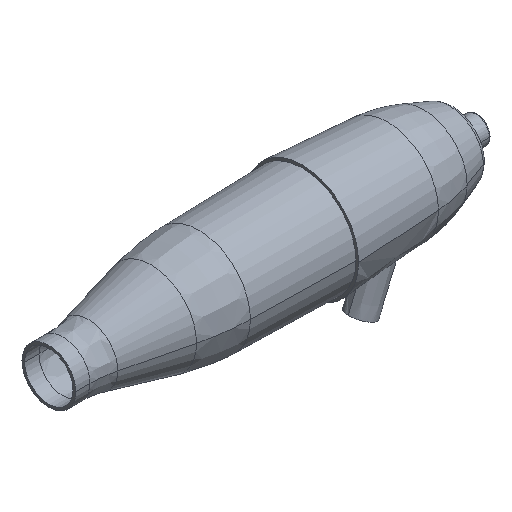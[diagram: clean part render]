
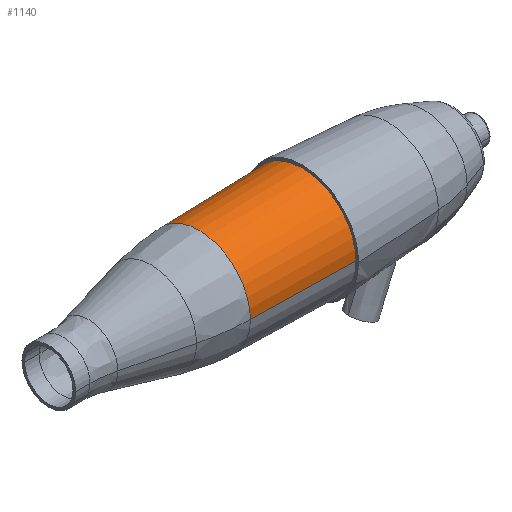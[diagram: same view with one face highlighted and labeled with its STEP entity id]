
A CAD part, isometric view. The second image highlights one B-rep face of the part: STEP entity #1140.
In plain terms, the highlighted free-form (B-spline) face has degree [8, 1] with [9, 2] control points.
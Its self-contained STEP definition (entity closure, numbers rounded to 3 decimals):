
#12=CARTESIAN_POINT('',(0.,0.,0.));
#13=DIRECTION('',(1.,0.,0.));
#14=DIRECTION('',(0.,1.,0.));
#15=AXIS2_PLACEMENT_3D('',#12,#13,#14);
#22=CARTESIAN_POINT('',(-38.456,0.,0.));
#23=DIRECTION('',(-1.,0.,0.));
#24=DIRECTION('',(0.,-1.,0.));
#25=AXIS2_PLACEMENT_3D('',#22,#23,#24);
#55=DIRECTION('',(-1.,0.021,0.));
#56=VECTOR('',#55,38.464);
#57=CARTESIAN_POINT('',(0.,-20.,0.));
#58=LINE('',#57,#56);
#64=DIRECTION('',(-1.,-0.021,0.));
#65=VECTOR('',#64,38.464);
#66=CARTESIAN_POINT('',(0.,20.,0.));
#67=LINE('',#66,#65);
#958=CARTESIAN_POINT('',(0.,20.,0.));
#959=CARTESIAN_POINT('',(0.,-20.,0.));
#960=VERTEX_POINT('',#958);
#961=VERTEX_POINT('',#959);
#978=CARTESIAN_POINT('',(-38.456,19.19,0.));
#979=CARTESIAN_POINT('',(-38.456,-19.19,0.));
#980=VERTEX_POINT('',#978);
#981=VERTEX_POINT('',#979);
#1112=CARTESIAN_POINT('',(-39.225,19.135,
-1.204));
#1113=CARTESIAN_POINT('',(0.769,19.977,
-1.257));
#1114=CARTESIAN_POINT('',(-39.225,19.627,6.611));
#1115=CARTESIAN_POINT('',(0.769,20.49,6.902));
#1116=CARTESIAN_POINT('',(-39.225,16.471,14.656));
#1117=CARTESIAN_POINT('',(0.769,17.195,15.3));
#1118=CARTESIAN_POINT('',(-39.225,9.549,20.943));
#1119=CARTESIAN_POINT('',(0.769,9.968,21.863));
#1120=CARTESIAN_POINT('',(-39.225,-0.002,
23.41));
#1121=CARTESIAN_POINT('',(0.769,-0.003,
24.439));
#1122=CARTESIAN_POINT('',(-39.225,-9.545,
20.943));
#1123=CARTESIAN_POINT('',(0.769,-9.965,
21.863));
#1124=CARTESIAN_POINT('',(-39.225,-16.471,
14.656));
#1125=CARTESIAN_POINT('',(0.769,-17.195,
15.3));
#1126=CARTESIAN_POINT('',(-39.225,-19.627,
6.611));
#1127=CARTESIAN_POINT('',(0.769,-20.49,
6.902));
#1128=CARTESIAN_POINT('',(-39.225,-19.135,
-1.204));
#1129=CARTESIAN_POINT('',(0.769,-19.977,
-1.257));
#1130=B_SPLINE_SURFACE_WITH_KNOTS('',8,1,((#1112,#1113),(#1114,#1115),(#1116,
#1117),(#1118,#1119),(#1120,#1121),(#1122,#1123),(#1124,#1125),(#1126,#1127),(
#1128,#1129)),.UNSPECIFIED.,.F.,.F.,.F.,(9,9),(2,2),(-3.204,
0.063),(909.764,949.758),.UNSPECIFIED.);
#1132=ORIENTED_EDGE('',*,*,#1131,.T.);
#1134=ORIENTED_EDGE('',*,*,#1133,.F.);
#1135=ORIENTED_EDGE('',*,*,#1105,.T.);
#1137=ORIENTED_EDGE('',*,*,#1136,.T.);
#1138=EDGE_LOOP('',(#1132,#1134,#1135,#1137));
#1139=FACE_OUTER_BOUND('',#1138,.F.);
#1140=ADVANCED_FACE('',(#1139),#1130,.T.);
#16=CIRCLE('',#15,20.);
#26=CIRCLE('',#25,19.19);
#1105=EDGE_CURVE('',#960,#961,#16,.T.);
#1131=EDGE_CURVE('',#981,#980,#26,.T.);
#1133=EDGE_CURVE('',#960,#980,#67,.T.);
#1136=EDGE_CURVE('',#961,#981,#58,.T.);
